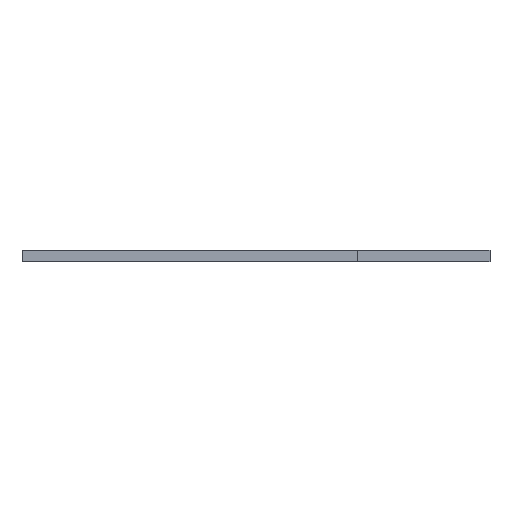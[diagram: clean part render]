
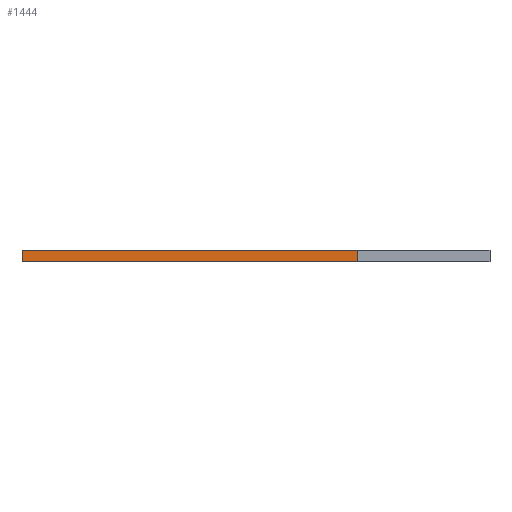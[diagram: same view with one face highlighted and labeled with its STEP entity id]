
A CAD part, front view. The second image highlights one B-rep face of the part: STEP entity #1444.
In plain terms, the highlighted planar face has unit normal (0, -1, 0).
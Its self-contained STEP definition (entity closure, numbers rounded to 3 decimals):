
#72 = PLANE('',#73);
#73 = AXIS2_PLACEMENT_3D('',#74,#75,#76);
#74 = CARTESIAN_POINT('',(37.965,74.666,1.6));
#75 = DIRECTION('',(-0.,-0.,-1.));
#76 = DIRECTION('',(-1.,0.,0.));
#126 = PLANE('',#127);
#127 = AXIS2_PLACEMENT_3D('',#128,#129,#130);
#128 = CARTESIAN_POINT('',(37.965,74.666,0.));
#129 = DIRECTION('',(-0.,-0.,-1.));
#130 = DIRECTION('',(-1.,0.,0.));
#487 = VERTEX_POINT('',#488);
#488 = CARTESIAN_POINT('',(47.5,0.,0.));
#502 = PLANE('',#503);
#503 = AXIS2_PLACEMENT_3D('',#504,#505,#506);
#504 = CARTESIAN_POINT('',(47.5,5.5,0.));
#505 = DIRECTION('',(1.,0.,-0.));
#506 = DIRECTION('',(0.,-1.,0.));
#514 = EDGE_CURVE('',#487,#515,#517,.T.);
#515 = VERTEX_POINT('',#516);
#516 = CARTESIAN_POINT('',(0.,0.,0.));
#517 = SURFACE_CURVE('',#518,(#522,#529),.PCURVE_S1.);
#518 = LINE('',#519,#520);
#519 = CARTESIAN_POINT('',(47.5,0.,0.));
#520 = VECTOR('',#521,1.);
#521 = DIRECTION('',(-1.,0.,0.));
#522 = PCURVE('',#126,#523);
#523 = DEFINITIONAL_REPRESENTATION('',(#524),#528);
#524 = LINE('',#525,#526);
#525 = CARTESIAN_POINT('',(-9.535,-74.666));
#526 = VECTOR('',#527,1.);
#527 = DIRECTION('',(1.,0.));
#528 = ( GEOMETRIC_REPRESENTATION_CONTEXT(2) 
PARAMETRIC_REPRESENTATION_CONTEXT() REPRESENTATION_CONTEXT('2D SPACE',''
  ) );
#529 = PCURVE('',#530,#535);
#530 = PLANE('',#531);
#531 = AXIS2_PLACEMENT_3D('',#532,#533,#534);
#532 = CARTESIAN_POINT('',(47.5,0.,0.));
#533 = DIRECTION('',(0.,-1.,0.));
#534 = DIRECTION('',(-1.,0.,0.));
#535 = DEFINITIONAL_REPRESENTATION('',(#536),#540);
#536 = LINE('',#537,#538);
#537 = CARTESIAN_POINT('',(0.,-0.));
#538 = VECTOR('',#539,1.);
#539 = DIRECTION('',(1.,0.));
#540 = ( GEOMETRIC_REPRESENTATION_CONTEXT(2) 
PARAMETRIC_REPRESENTATION_CONTEXT() REPRESENTATION_CONTEXT('2D SPACE',''
  ) );
#558 = PLANE('',#559);
#559 = AXIS2_PLACEMENT_3D('',#560,#561,#562);
#560 = CARTESIAN_POINT('',(0.,0.,0.));
#561 = DIRECTION('',(-1.,0.,0.));
#562 = DIRECTION('',(0.,1.,0.));
#1039 = VERTEX_POINT('',#1040);
#1040 = CARTESIAN_POINT('',(47.5,0.,1.6));
#1061 = EDGE_CURVE('',#1039,#1062,#1064,.T.);
#1062 = VERTEX_POINT('',#1063);
#1063 = CARTESIAN_POINT('',(0.,0.,1.6));
#1064 = SURFACE_CURVE('',#1065,(#1069,#1076),.PCURVE_S1.);
#1065 = LINE('',#1066,#1067);
#1066 = CARTESIAN_POINT('',(47.5,0.,1.6));
#1067 = VECTOR('',#1068,1.);
#1068 = DIRECTION('',(-1.,0.,0.));
#1069 = PCURVE('',#72,#1070);
#1070 = DEFINITIONAL_REPRESENTATION('',(#1071),#1075);
#1071 = LINE('',#1072,#1073);
#1072 = CARTESIAN_POINT('',(-9.535,-74.666));
#1073 = VECTOR('',#1074,1.);
#1074 = DIRECTION('',(1.,0.));
#1075 = ( GEOMETRIC_REPRESENTATION_CONTEXT(2) 
PARAMETRIC_REPRESENTATION_CONTEXT() REPRESENTATION_CONTEXT('2D SPACE',''
  ) );
#1076 = PCURVE('',#530,#1077);
#1077 = DEFINITIONAL_REPRESENTATION('',(#1078),#1082);
#1078 = LINE('',#1079,#1080);
#1079 = CARTESIAN_POINT('',(0.,-1.6));
#1080 = VECTOR('',#1081,1.);
#1081 = DIRECTION('',(1.,0.));
#1082 = ( GEOMETRIC_REPRESENTATION_CONTEXT(2) 
PARAMETRIC_REPRESENTATION_CONTEXT() REPRESENTATION_CONTEXT('2D SPACE',''
  ) );
#1394 = EDGE_CURVE('',#515,#1062,#1395,.T.);
#1395 = SURFACE_CURVE('',#1396,(#1400,#1407),.PCURVE_S1.);
#1396 = LINE('',#1397,#1398);
#1397 = CARTESIAN_POINT('',(0.,0.,0.));
#1398 = VECTOR('',#1399,1.);
#1399 = DIRECTION('',(0.,0.,1.));
#1400 = PCURVE('',#558,#1401);
#1401 = DEFINITIONAL_REPRESENTATION('',(#1402),#1406);
#1402 = LINE('',#1403,#1404);
#1403 = CARTESIAN_POINT('',(0.,0.));
#1404 = VECTOR('',#1405,1.);
#1405 = DIRECTION('',(0.,-1.));
#1406 = ( GEOMETRIC_REPRESENTATION_CONTEXT(2) 
PARAMETRIC_REPRESENTATION_CONTEXT() REPRESENTATION_CONTEXT('2D SPACE',''
  ) );
#1407 = PCURVE('',#530,#1408);
#1408 = DEFINITIONAL_REPRESENTATION('',(#1409),#1413);
#1409 = LINE('',#1410,#1411);
#1410 = CARTESIAN_POINT('',(47.5,0.));
#1411 = VECTOR('',#1412,1.);
#1412 = DIRECTION('',(0.,-1.));
#1413 = ( GEOMETRIC_REPRESENTATION_CONTEXT(2) 
PARAMETRIC_REPRESENTATION_CONTEXT() REPRESENTATION_CONTEXT('2D SPACE',''
  ) );
#1444 = ADVANCED_FACE('',(#1445),#530,.T.);
#1445 = FACE_BOUND('',#1446,.T.);
#1446 = EDGE_LOOP('',(#1447,#1468,#1469,#1470));
#1447 = ORIENTED_EDGE('',*,*,#1448,.T.);
#1448 = EDGE_CURVE('',#487,#1039,#1449,.T.);
#1449 = SURFACE_CURVE('',#1450,(#1454,#1461),.PCURVE_S1.);
#1450 = LINE('',#1451,#1452);
#1451 = CARTESIAN_POINT('',(47.5,0.,0.));
#1452 = VECTOR('',#1453,1.);
#1453 = DIRECTION('',(0.,0.,1.));
#1454 = PCURVE('',#530,#1455);
#1455 = DEFINITIONAL_REPRESENTATION('',(#1456),#1460);
#1456 = LINE('',#1457,#1458);
#1457 = CARTESIAN_POINT('',(0.,-0.));
#1458 = VECTOR('',#1459,1.);
#1459 = DIRECTION('',(0.,-1.));
#1460 = ( GEOMETRIC_REPRESENTATION_CONTEXT(2) 
PARAMETRIC_REPRESENTATION_CONTEXT() REPRESENTATION_CONTEXT('2D SPACE',''
  ) );
#1461 = PCURVE('',#502,#1462);
#1462 = DEFINITIONAL_REPRESENTATION('',(#1463),#1467);
#1463 = LINE('',#1464,#1465);
#1464 = CARTESIAN_POINT('',(5.5,0.));
#1465 = VECTOR('',#1466,1.);
#1466 = DIRECTION('',(0.,-1.));
#1467 = ( GEOMETRIC_REPRESENTATION_CONTEXT(2) 
PARAMETRIC_REPRESENTATION_CONTEXT() REPRESENTATION_CONTEXT('2D SPACE',''
  ) );
#1468 = ORIENTED_EDGE('',*,*,#1061,.T.);
#1469 = ORIENTED_EDGE('',*,*,#1394,.F.);
#1470 = ORIENTED_EDGE('',*,*,#514,.F.);
